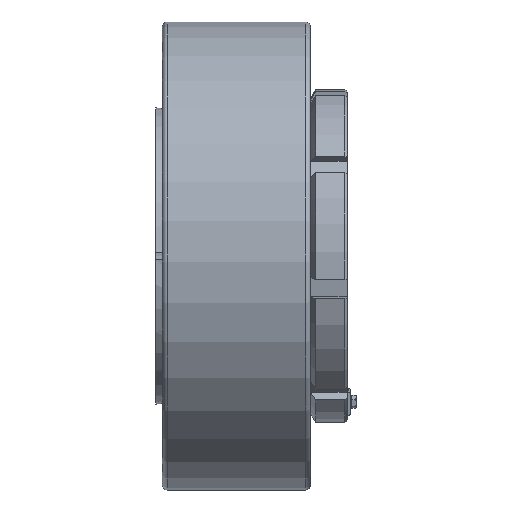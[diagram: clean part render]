
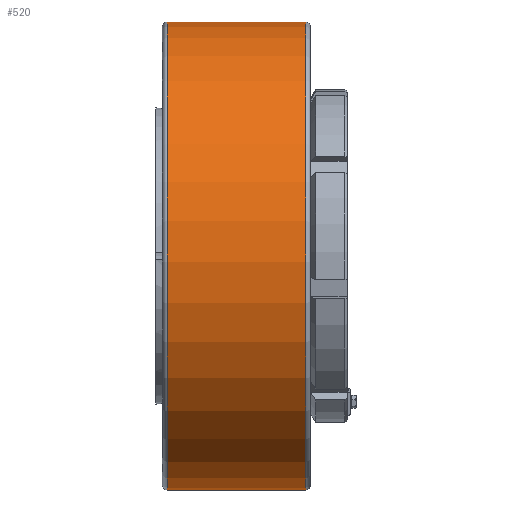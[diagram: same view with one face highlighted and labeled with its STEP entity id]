
A CAD part, front view. The second image highlights one B-rep face of the part: STEP entity #520.
In plain terms, the highlighted cylindrical face has radius 380 mm (diameter 760 mm), a full revolution.
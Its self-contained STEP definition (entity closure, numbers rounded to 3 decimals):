
#520 = ADVANCED_FACE( '', ( #1169, #1170 ), #1171, .T. );
#1169 = FACE_OUTER_BOUND( '', #1942, .T. );
#1170 = FACE_OUTER_BOUND( '', #1943, .T. );
#1171 = CYLINDRICAL_SURFACE( '', #1944, 380. );
#1942 = EDGE_LOOP( '', ( #4076 ) );
#1943 = EDGE_LOOP( '', ( #4077 ) );
#1944 = AXIS2_PLACEMENT_3D( '', #4078, #4079, #4080 );
#4076 = ORIENTED_EDGE( '', *, *, #5532, .T. );
#4077 = ORIENTED_EDGE( '', *, *, #5546, .F. );
#4078 = CARTESIAN_POINT( '', ( 0., 0., 0. ) );
#4079 = DIRECTION( '', ( -1., 0., 0. ) );
#4080 = DIRECTION( '', ( 0., 0., -1. ) );
#5532 = EDGE_CURVE( '', #6788, #6788, #6789, .T. );
#5546 = EDGE_CURVE( '', #6816, #6816, #6817, .T. );
#6788 = VERTEX_POINT( '', #8837 );
#6789 = CIRCLE( '', #8838, 380. );
#6816 = VERTEX_POINT( '', #8865 );
#6817 = CIRCLE( '', #8866, 380. );
#8837 = CARTESIAN_POINT( '', ( -303.5, 0., -380. ) );
#8838 = AXIS2_PLACEMENT_3D( '', #10404, #10405, #10406 );
#8865 = CARTESIAN_POINT( '', ( -78.5, 0., -380. ) );
#8866 = AXIS2_PLACEMENT_3D( '', #10446, #10447, #10448 );
#10404 = CARTESIAN_POINT( '', ( -303.5, 0., 0. ) );
#10405 = DIRECTION( '', ( 1., 0., 0. ) );
#10406 = DIRECTION( '', ( 0., 0., -1. ) );
#10446 = CARTESIAN_POINT( '', ( -78.5, 0., 0. ) );
#10447 = DIRECTION( '', ( 1., 0., 0. ) );
#10448 = DIRECTION( '', ( 0., 0., -1. ) );
